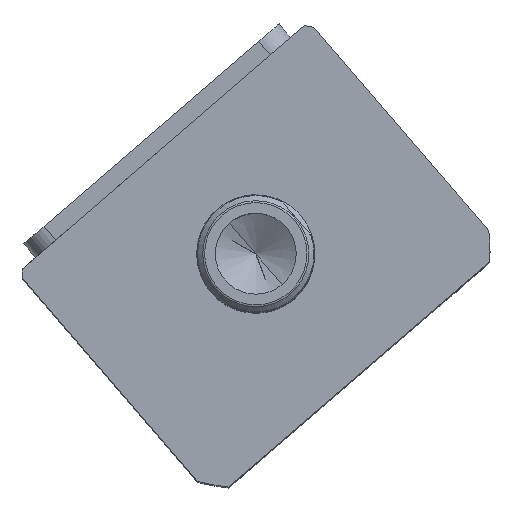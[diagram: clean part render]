
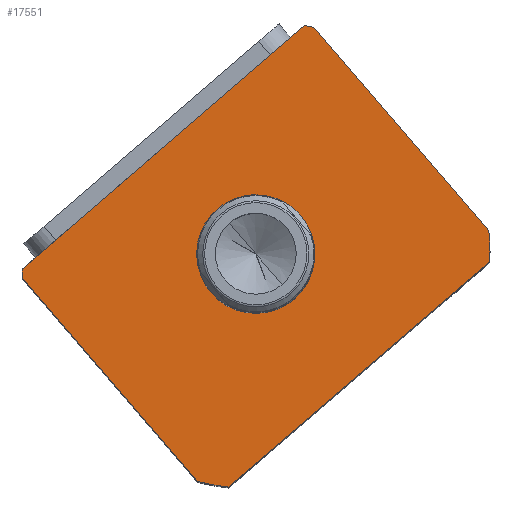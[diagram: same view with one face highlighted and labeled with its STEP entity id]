
A CAD part, top view. The second image highlights one B-rep face of the part: STEP entity #17551.
In plain terms, the highlighted planar face has unit normal (0, 0, 1) as drawn and (0, 0, -1) by its records, which use the part's own axes.
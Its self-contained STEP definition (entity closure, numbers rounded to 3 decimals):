
#64 = VERTEX_POINT ( 'NONE', #5637 ) ;
#149 = AXIS2_PLACEMENT_3D ( 'NONE', #1782, #11832, #3249 ) ;
#151 = CARTESIAN_POINT ( 'NONE',  ( -57., -17.497, 0. ) ) ;
#292 = CARTESIAN_POINT ( 'NONE',  ( -57., -17.497, 0. ) ) ;
#1002 = CARTESIAN_POINT ( 'NONE',  ( -57., -19.732, 0. ) ) ;
#1472 = AXIS2_PLACEMENT_3D ( 'NONE', #4635, #14740, #6041 ) ;
#1493 = EDGE_CURVE ( 'NONE', #9009, #13163, #3453, .T. ) ;
#1782 = CARTESIAN_POINT ( 'NONE',  ( 0., -59.497, 0. ) ) ;
#1786 = DIRECTION ( 'NONE',  ( 0., 0., 1. ) ) ;
#2238 = DIRECTION ( 'NONE',  ( 1., 0., 0. ) ) ;
#2388 = CARTESIAN_POINT ( 'NONE',  ( 0., -59.497, 0. ) ) ;
#2434 = CIRCLE ( 'NONE', #16480, 69.5 ) ;
#2767 = VERTEX_POINT ( 'NONE', #15081 ) ;
#3066 = AXIS2_PLACEMENT_3D ( 'NONE', #14771, #6068, #16242 ) ;
#3159 = CARTESIAN_POINT ( 'NONE',  ( 57., -99.262, 0. ) ) ;
#3249 = DIRECTION ( 'NONE',  ( 1., 0., 0. ) ) ;
#3260 = ORIENTED_EDGE ( 'NONE', *, *, #12211, .F. ) ;
#3372 = EDGE_LOOP ( 'NONE', ( #16812, #8899, #9078, #8596, #17013, #17183, #3260, #3758 ) ) ;
#3453 = LINE ( 'NONE', #151, #14450 ) ;
#3481 = CARTESIAN_POINT ( 'NONE',  ( 51.198, -106.497, 0. ) ) ;
#3483 = VERTEX_POINT ( 'NONE', #4677 ) ;
#3758 = ORIENTED_EDGE ( 'NONE', *, *, #8140, .F. ) ;
#3817 = DIRECTION ( 'NONE',  ( 1., 0., 0. ) ) ;
#4635 = CARTESIAN_POINT ( 'NONE',  ( 0., -59.497, 0. ) ) ;
#4677 = CARTESIAN_POINT ( 'NONE',  ( 55.374, -17.497, 0. ) ) ;
#4728 = CIRCLE ( 'NONE', #9585, 69.5 ) ;
#5229 = EDGE_CURVE ( 'NONE', #17733, #2767, #13485, .T. ) ;
#5234 = EDGE_LOOP ( 'NONE', ( #13876, #10179 ) ) ;
#5637 = CARTESIAN_POINT ( 'NONE',  ( -55.374, -17.497, 0. ) ) ;
#5731 = EDGE_CURVE ( 'NONE', #2767, #3483, #8223, .T. ) ;
#5757 = EDGE_CURVE ( 'NONE', #13163, #13216, #9145, .T. ) ;
#5888 = CARTESIAN_POINT ( 'NONE',  ( 0., -59.497, 0. ) ) ;
#6041 = DIRECTION ( 'NONE',  ( 1., 0., 0. ) ) ;
#6068 = DIRECTION ( 'NONE',  ( 0., 0., 1. ) ) ;
#6378 = CIRCLE ( 'NONE', #149, 17.5 ) ;
#6851 = VECTOR ( 'NONE', #2238, 1000. ) ;
#7320 = DIRECTION ( 'NONE',  ( 1., 0., 0. ) ) ;
#8095 = EDGE_CURVE ( 'NONE', #8121, #11442, #6378, .T. ) ;
#8121 = VERTEX_POINT ( 'NONE', #10344 ) ;
#8140 = EDGE_CURVE ( 'NONE', #3483, #64, #17546, .T. ) ;
#8223 = CIRCLE ( 'NONE', #18288, 69.5 ) ;
#8284 = PLANE ( 'NONE',  #12582 ) ;
#8596 = ORIENTED_EDGE ( 'NONE', *, *, #13518, .F. ) ;
#8899 = ORIENTED_EDGE ( 'NONE', *, *, #5229, .F. ) ;
#8943 = DIRECTION ( 'NONE',  ( -1., 0., 0. ) ) ;
#9009 = VERTEX_POINT ( 'NONE', #1002 ) ;
#9028 = CARTESIAN_POINT ( 'NONE',  ( -51.198, -106.497, 0. ) ) ;
#9078 = ORIENTED_EDGE ( 'NONE', *, *, #17922, .F. ) ;
#9145 = CIRCLE ( 'NONE', #1472, 69.5 ) ;
#9585 = AXIS2_PLACEMENT_3D ( 'NONE', #5888, #16046, #7320 ) ;
#9632 = CARTESIAN_POINT ( 'NONE',  ( 17.5, -59.497, 0. ) ) ;
#9759 = DIRECTION ( 'NONE',  ( 1., 0., 0. ) ) ;
#10179 = ORIENTED_EDGE ( 'NONE', *, *, #8095, .T. ) ;
#10206 = DIRECTION ( 'NONE',  ( 0., -1., 0. ) ) ;
#10344 = CARTESIAN_POINT ( 'NONE',  ( -17.5, -59.497, 0. ) ) ;
#10348 = CARTESIAN_POINT ( 'NONE',  ( 0., -59.497, 0. ) ) ;
#10722 = LINE ( 'NONE', #13672, #6851 ) ;
#11382 = FACE_OUTER_BOUND ( 'NONE', #3372, .T. ) ;
#11442 = VERTEX_POINT ( 'NONE', #9632 ) ;
#11708 = CARTESIAN_POINT ( 'NONE',  ( -57., -99.262, 0. ) ) ;
#11832 = DIRECTION ( 'NONE',  ( 0., 0., 1. ) ) ;
#11838 = DIRECTION ( 'NONE',  ( 1., 0., 0. ) ) ;
#11876 = FACE_BOUND ( 'NONE', #5234, .T. ) ;
#12211 = EDGE_CURVE ( 'NONE', #64, #9009, #4728, .T. ) ;
#12354 = DIRECTION ( 'NONE',  ( 0., 1., 0. ) ) ;
#12426 = DIRECTION ( 'NONE',  ( 0., 0., 1. ) ) ;
#12582 = AXIS2_PLACEMENT_3D ( 'NONE', #14034, #18492, #9759 ) ;
#13028 = VECTOR ( 'NONE', #12354, 1000. ) ;
#13163 = VERTEX_POINT ( 'NONE', #11708 ) ;
#13216 = VERTEX_POINT ( 'NONE', #9028 ) ;
#13485 = LINE ( 'NONE', #13803, #13028 ) ;
#13518 = EDGE_CURVE ( 'NONE', #13216, #14783, #10722, .T. ) ;
#13664 = VECTOR ( 'NONE', #8943, 1000. ) ;
#13672 = CARTESIAN_POINT ( 'NONE',  ( -57., -106.497, 0. ) ) ;
#13803 = CARTESIAN_POINT ( 'NONE',  ( 57., -17.497, 0. ) ) ;
#13876 = ORIENTED_EDGE ( 'NONE', *, *, #16206, .T. ) ;
#14034 = CARTESIAN_POINT ( 'NONE',  ( 0., 0., 0. ) ) ;
#14450 = VECTOR ( 'NONE', #10206, 1000. ) ;
#14740 = DIRECTION ( 'NONE',  ( 0., 0., 1. ) ) ;
#14771 = CARTESIAN_POINT ( 'NONE',  ( 0., -59.497, 0. ) ) ;
#14783 = VERTEX_POINT ( 'NONE', #3481 ) ;
#15081 = CARTESIAN_POINT ( 'NONE',  ( 57., -19.732, 0. ) ) ;
#16046 = DIRECTION ( 'NONE',  ( 0., 0., 1. ) ) ;
#16206 = EDGE_CURVE ( 'NONE', #11442, #8121, #16621, .T. ) ;
#16242 = DIRECTION ( 'NONE',  ( 1., 0., 0. ) ) ;
#16480 = AXIS2_PLACEMENT_3D ( 'NONE', #2388, #12426, #3817 ) ;
#16621 = CIRCLE ( 'NONE', #3066, 17.5 ) ;
#16812 = ORIENTED_EDGE ( 'NONE', *, *, #5731, .F. ) ;
#17013 = ORIENTED_EDGE ( 'NONE', *, *, #5757, .F. ) ;
#17183 = ORIENTED_EDGE ( 'NONE', *, *, #1493, .F. ) ;
#17546 = LINE ( 'NONE', #292, #13664 ) ;
#17551 = ADVANCED_FACE ( 'NONE', ( #11876, #11382 ), #8284, .F. ) ;
#17733 = VERTEX_POINT ( 'NONE', #3159 ) ;
#17922 = EDGE_CURVE ( 'NONE', #14783, #17733, #2434, .T. ) ;
#18288 = AXIS2_PLACEMENT_3D ( 'NONE', #10348, #1786, #11838 ) ;
#18492 = DIRECTION ( 'NONE',  ( 0., 0., 1. ) ) ;
